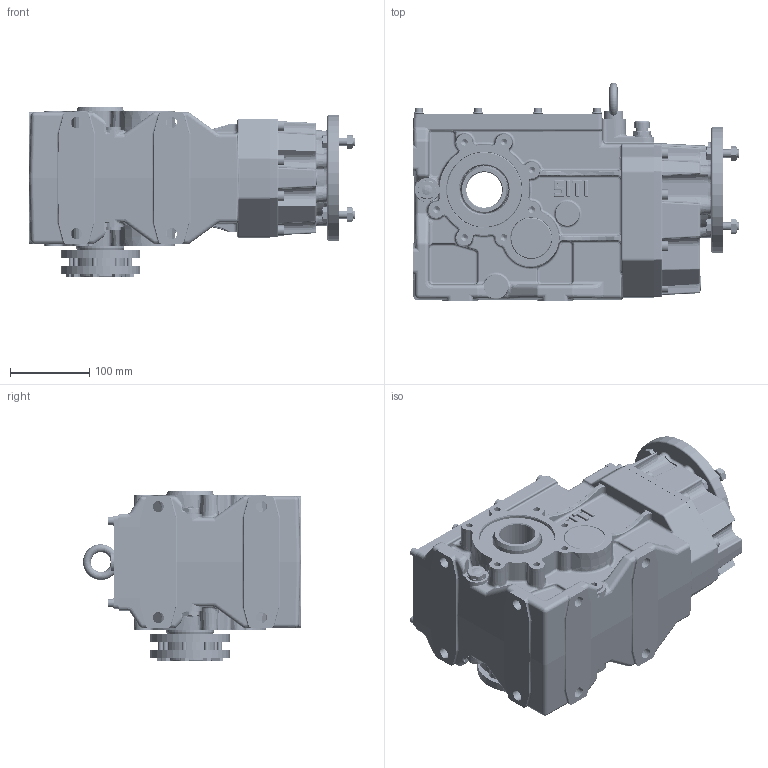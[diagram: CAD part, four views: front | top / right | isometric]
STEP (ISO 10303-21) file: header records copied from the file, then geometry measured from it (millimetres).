
FILE_DESCRIPTION((''),'2;1');
FILE_NAME('O:\Figurini\Figurini BH\3D\80\MBH 80 CC-A PAM 71 B5.stp','2013-05-30T16:49:28',('d.iannaccio'),(''),'Autodesk Inventor 2012','Autodesk Inventor 2012','');
FILE_SCHEMA(('AUTOMOTIVE_DESIGN { 1 0 10303 214 1 1 1 1 }'));
Length unit declared in the file: millimetre
Products named in the file (1): MBH_80 CC-A PAM 71 B5
Bounding box: 411.5 x 275 x 215 mm (x, y, z)
Volume: 4041132.8 mm3; surface area: 938949.3 mm2
Topology: 2 solids, 67 shells, 4005 faces, 9609 edges, 5797 vertices
Faces by surface type: plane 1199, cylinder 1099, bspline 800, cone 431, torus 373, sphere 103
Full cylindrical faces by diameter (mm): 4.917 x8, 6 x32, 6.4 x8, 6.5 x16, 6.647 x16, 7 x8, 8 x14, 8.376 x15, 8.5 x2, 9 x12, 10 x24, 11.445 x1, 12 x1, 12.5 x8, 13 x16, 14 x16, 14.63 x4, 14.95 x7, 15.95 x1, 16 x3, 17 x1, 18 x1, 19.5 x1, 20 x2, 20.4 x1, 25 x1, 33 x1, 34.58 x1, 34.9 x1, 34.98 x2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
Entity records: 137165 total; most frequent: CARTESIAN_POINT 47923, ORIENTED_EDGE 17360, DIRECTION 17213, EDGE_CURVE 8680, AXIS2_PLACEMENT_3D 7151, VERTEX_POINT 5569, EDGE_LOOP 4888, STYLED_ITEM 4006
